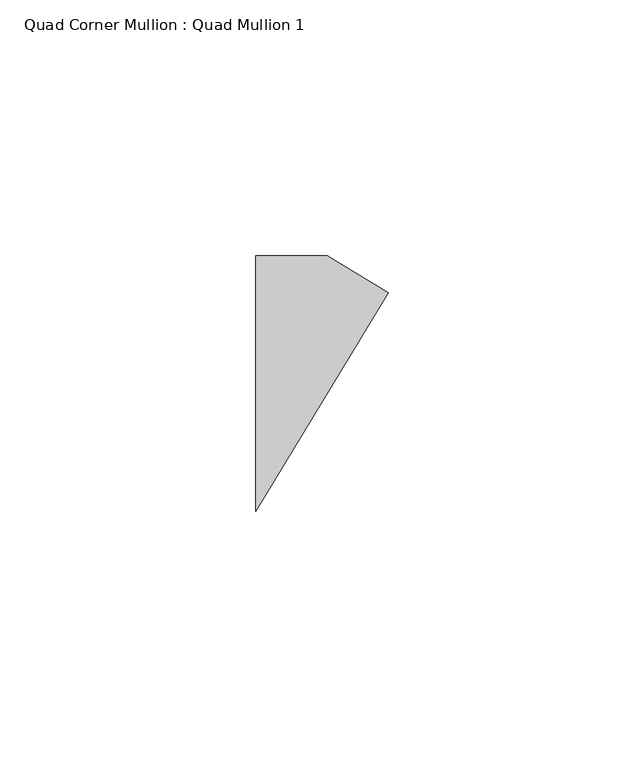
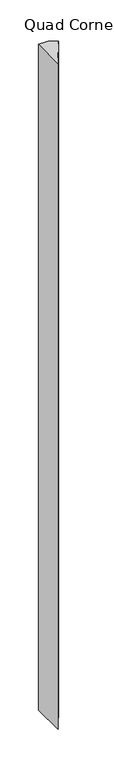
"""IFC4 building model written with IfcOpenShell, lengths in millimetres: member geometry, Quad Corner Mullion : Quad Mullion 1."""

from ifc_helpers import new_model, si_unit, frame, origin, place, context, project, spatial, polyline, outline, extrude, source, transform, mapped, element, save


def quad_corner_mullion_quad_mullion_1_35d8a823(model_context):
    return source(origin(), model_context, "Body", "SweptSolid", [
        extrude(outline(polyline([(18.9158712, 17.7729457), (-6.9776631, -25.0), (-6.9776631, 25.0), (6.9776631, 25.0), (18.9158712, 17.7729457)])), frame((0.0, 0.0, -1050.0), z_axis=(0.0, 0.0, 1.0), x_axis=(1.0, 0.0, 0.0)), (0.0, 0.0, 1.0), 1050.0),
    ])


if __name__ == "__main__":
    model = new_model("IFC4")
    model_context = context("Model", 3, world=origin())
    ifc_project = project(units=[si_unit("LENGTHUNIT", "METRE", prefix="MILLI")], contexts=[model_context])
    site = spatial("IfcSite", under=ifc_project)
    building = spatial("IfcBuilding", under=site)
    placement = place(None, origin())
    quad_corner_mullion_quad_mullion_1_shape = quad_corner_mullion_quad_mullion_1_35d8a823(model_context)
    element("IfcMember", 1, ObjectType="Quad Corner Mullion : Quad Mullion 1", at=placement, inside=building, context=model_context, shape_type="MappedRepresentation", body=[
        mapped(quad_corner_mullion_quad_mullion_1_shape, transform((0.0, 0.0, 0.0), x_axis=(1.0, 0.0, 0.0), y_axis=(0.0, 1.0, 0.0), z_axis=(0.0, 0.0, 1.0))),
    ])
    save(model, "model.ifc")
